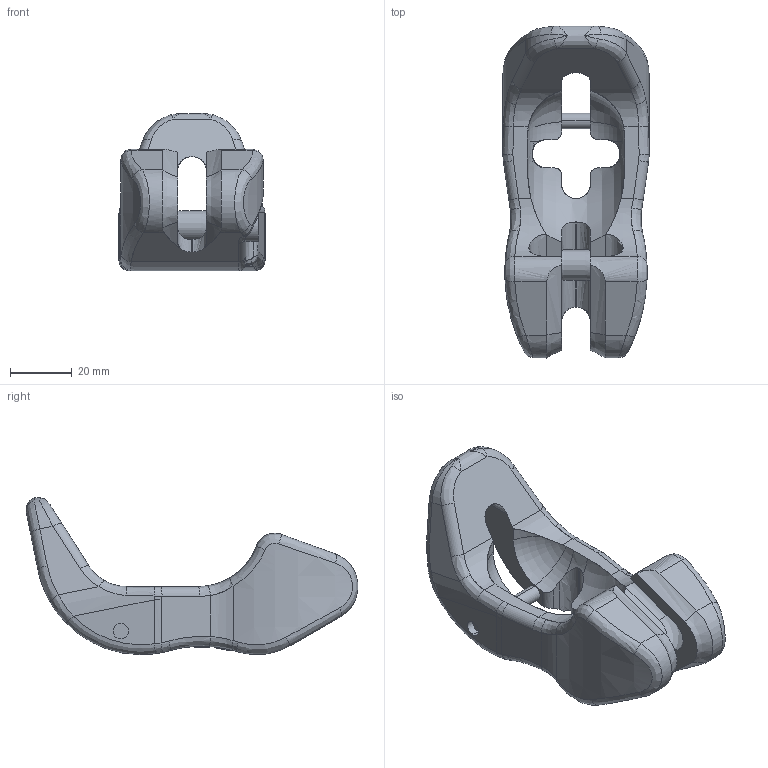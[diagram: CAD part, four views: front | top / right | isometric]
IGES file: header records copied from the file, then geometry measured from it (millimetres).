
Start section:  PTC IGES file: C:\Aktuell-Internet\CAD-Daten\3vmvk8.igs
Global section: file name: C:\Aktuell-Internet\CAD-Daten\3vmvk8.igs; native system: Pro/ENGINEER by Parametric Technology Corporation; preprocessor: 2001400; author: jakubetz; organization: Unknown; date: 030821.110905; units: millimetre
Bounding box: 47.2 x 107.19 x 50.8 mm (x, y, z)
Surface area: 19419.3 mm2 (no closed solid volume)
Topology: 0 solids, 0 shells, 373 faces, 2026 edges, 2026 vertices
Faces by surface type: bspline 273, revolution 100
